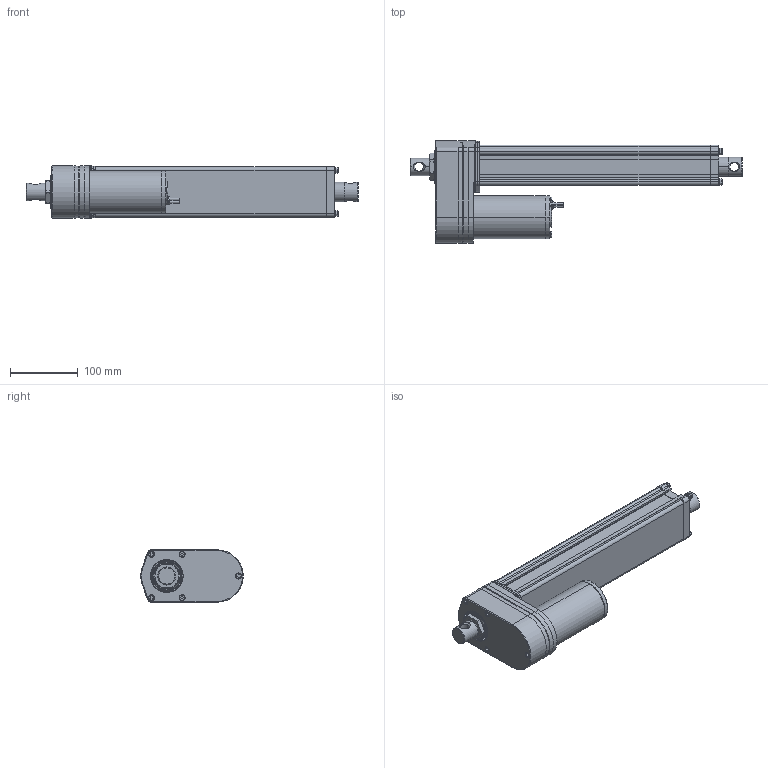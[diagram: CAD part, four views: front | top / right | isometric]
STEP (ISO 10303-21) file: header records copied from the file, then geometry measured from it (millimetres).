
FILE_DESCRIPTION((''),' ');
FILE_NAME('dszy12-300_std.stp',' ',('MSW'),('MSW'),' ','ACIS 14.0',' ');
FILE_SCHEMA(('automotive_design'));
Length unit declared in the file: inch
Products named in the file (2): dszy12-300_std
Bounding box: 491 x 151.7 x 77.2 mm (x, y, z)
Volume: 2304198.8 mm3; surface area: 261881.9 mm2
Topology: 2 solids, 2 shells, 1648 faces, 4015 edges, 2386 vertices
Faces by surface type: plane 1316, cylinder 218, cone 60, torus 30, bspline 24
Entity records: 60917 total; most frequent: CARTESIAN_POINT 8562, DIRECTION 8537, ORIENTED_EDGE 7982, EDGE_CURVE 3991, AXIS2_PLACEMENT_3D 2962, LINE 2613, VECTOR 2613, VERTEX_POINT 2386
